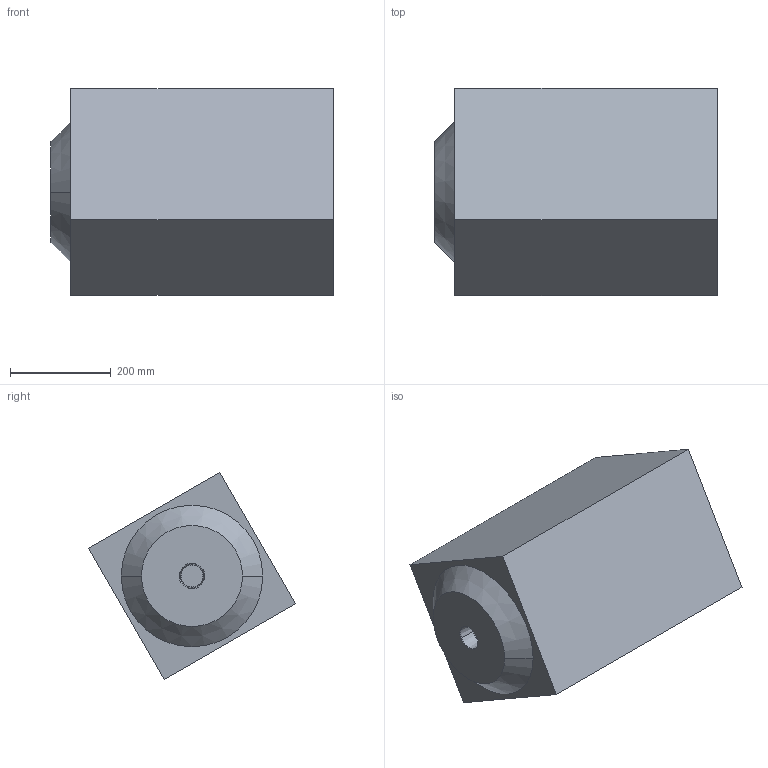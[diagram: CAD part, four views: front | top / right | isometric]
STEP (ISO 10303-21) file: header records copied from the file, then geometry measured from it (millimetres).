
FILE_DESCRIPTION(('CATIA V5 STEP Exchange'),'2;1');
FILE_NAME('D:\Clients_NCS8\Cenit-AG\Import\OKUMA250\B.stp','2005-03-09T16:53:14+00:00',('none'),('none'),'CATIA Version 5 Release 14 (IN-10)','CATIA V5 STEP AP203','none');
FILE_SCHEMA(('CONFIG_CONTROL_DESIGN'));
Length unit declared in the file: millimetre
Products named in the file (1): okuma_dr-fr
Assembly tree (1 placements, depth 2):
  okuma_dr-fr
    #56
Bounding box: 560 x 409.81 x 409.81 mm (x, y, z)
Volume: 48570711.4 mm3; surface area: 820866 mm2
Topology: 1 solids, 1 shells, 16 faces, 32 edges, 20 vertices
Faces by surface type: plane 8, cone 4, torus 4
Entity records: 453 total; most frequent: CARTESIAN_POINT 67, ORIENTED_EDGE 64, DIRECTION 62, EDGE_CURVE 32, AXIS2_PLACEMENT_3D 31, VERTEX_POINT 20, EDGE_LOOP 18, VECTOR 16
